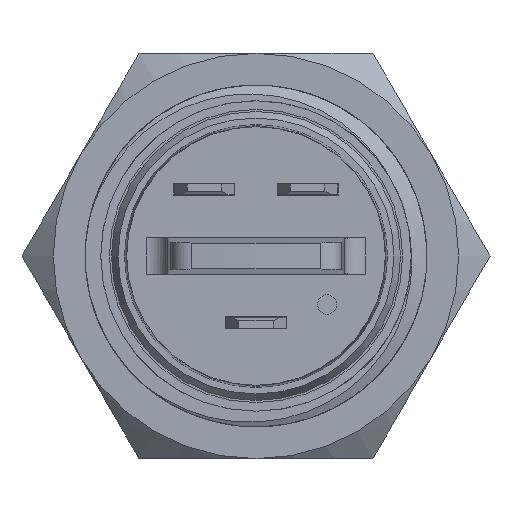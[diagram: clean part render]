
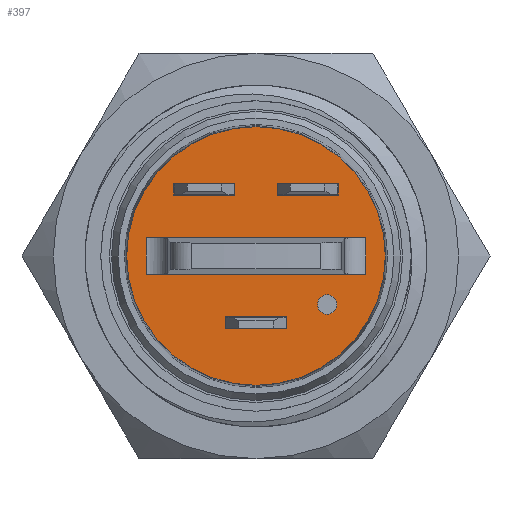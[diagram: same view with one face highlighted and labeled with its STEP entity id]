
A CAD part, front view. The second image highlights one B-rep face of the part: STEP entity #397.
In plain terms, the highlighted planar face has unit normal (0, -1, 0).
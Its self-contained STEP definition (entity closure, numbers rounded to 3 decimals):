
#397=ADVANCED_FACE('',(#716,#717,#718,#719,#720,#721),#556,.F.);
#556=PLANE('',#3203);
#651=CIRCLE('',#3201,0.45);
#652=CIRCLE('',#3202,6.);
#716=FACE_BOUND('',#844,.T.);
#717=FACE_BOUND('',#845,.T.);
#718=FACE_BOUND('',#846,.T.);
#719=FACE_BOUND('',#847,.T.);
#720=FACE_BOUND('',#848,.T.);
#721=FACE_BOUND('',#849,.T.);
#844=EDGE_LOOP('',(#1331,#1332,#1333,#1334));
#845=EDGE_LOOP('',(#1335,#1336,#1337,#1338));
#846=EDGE_LOOP('',(#1339));
#847=EDGE_LOOP('',(#1340));
#848=EDGE_LOOP('',(#1341,#1342,#1343,#1344));
#849=EDGE_LOOP('',(#1345,#1346,#1347,#1348));
#1331=ORIENTED_EDGE('',*,*,#2291,.F.);
#1332=ORIENTED_EDGE('',*,*,#2292,.F.);
#1333=ORIENTED_EDGE('',*,*,#2293,.F.);
#1334=ORIENTED_EDGE('',*,*,#2294,.F.);
#1335=ORIENTED_EDGE('',*,*,#2295,.T.);
#1336=ORIENTED_EDGE('',*,*,#2296,.T.);
#1337=ORIENTED_EDGE('',*,*,#2297,.T.);
#1338=ORIENTED_EDGE('',*,*,#2298,.T.);
#1339=ORIENTED_EDGE('',*,*,#2299,.T.);
#1340=ORIENTED_EDGE('',*,*,#2300,.T.);
#1341=ORIENTED_EDGE('',*,*,#2301,.T.);
#1342=ORIENTED_EDGE('',*,*,#2302,.T.);
#1343=ORIENTED_EDGE('',*,*,#2303,.F.);
#1344=ORIENTED_EDGE('',*,*,#2304,.F.);
#1345=ORIENTED_EDGE('',*,*,#2305,.F.);
#1346=ORIENTED_EDGE('',*,*,#2306,.F.);
#1347=ORIENTED_EDGE('',*,*,#2307,.F.);
#1348=ORIENTED_EDGE('',*,*,#2308,.F.);
#1953=VERTEX_POINT('',#4559);
#1954=VERTEX_POINT('',#4560);
#1955=VERTEX_POINT('',#4562);
#1956=VERTEX_POINT('',#4564);
#1957=VERTEX_POINT('',#4567);
#1958=VERTEX_POINT('',#4568);
#1959=VERTEX_POINT('',#4570);
#1960=VERTEX_POINT('',#4572);
#1961=VERTEX_POINT('',#4575);
#1962=VERTEX_POINT('',#4577);
#1963=VERTEX_POINT('',#4579);
#1964=VERTEX_POINT('',#4580);
#1965=VERTEX_POINT('',#4582);
#1966=VERTEX_POINT('',#4584);
#1967=VERTEX_POINT('',#4587);
#1968=VERTEX_POINT('',#4588);
#1969=VERTEX_POINT('',#4590);
#1970=VERTEX_POINT('',#4592);
#2291=EDGE_CURVE('',#1953,#1954,#2682,.T.);
#2292=EDGE_CURVE('',#1955,#1953,#2683,.T.);
#2293=EDGE_CURVE('',#1956,#1955,#2684,.T.);
#2294=EDGE_CURVE('',#1954,#1956,#2685,.T.);
#2295=EDGE_CURVE('',#1957,#1958,#2686,.T.);
#2296=EDGE_CURVE('',#1958,#1959,#2687,.T.);
#2297=EDGE_CURVE('',#1959,#1960,#2688,.T.);
#2298=EDGE_CURVE('',#1960,#1957,#2689,.T.);
#2299=EDGE_CURVE('',#1961,#1961,#651,.T.);
#2300=EDGE_CURVE('',#1962,#1962,#652,.T.);
#2301=EDGE_CURVE('',#1963,#1964,#2690,.T.);
#2302=EDGE_CURVE('',#1964,#1965,#2691,.T.);
#2303=EDGE_CURVE('',#1966,#1965,#2692,.T.);
#2304=EDGE_CURVE('',#1963,#1966,#2693,.T.);
#2305=EDGE_CURVE('',#1967,#1968,#2694,.T.);
#2306=EDGE_CURVE('',#1969,#1967,#2695,.T.);
#2307=EDGE_CURVE('',#1970,#1969,#2696,.T.);
#2308=EDGE_CURVE('',#1968,#1970,#2697,.T.);
#2682=LINE('',#4558,#2974);
#2683=LINE('',#4561,#2975);
#2684=LINE('',#4563,#2976);
#2685=LINE('',#4565,#2977);
#2686=LINE('',#4566,#2978);
#2687=LINE('',#4569,#2979);
#2688=LINE('',#4571,#2980);
#2689=LINE('',#4573,#2981);
#2690=LINE('',#4578,#2982);
#2691=LINE('',#4581,#2983);
#2692=LINE('',#4583,#2984);
#2693=LINE('',#4585,#2985);
#2694=LINE('',#4586,#2986);
#2695=LINE('',#4589,#2987);
#2696=LINE('',#4591,#2988);
#2697=LINE('',#4593,#2989);
#2974=VECTOR('',#3705,1.);
#2975=VECTOR('',#3706,1.);
#2976=VECTOR('',#3707,1.);
#2977=VECTOR('',#3708,1.);
#2978=VECTOR('',#3709,1.);
#2979=VECTOR('',#3710,1.);
#2980=VECTOR('',#3711,1.);
#2981=VECTOR('',#3712,1.);
#2982=VECTOR('',#3717,1.);
#2983=VECTOR('',#3718,1.);
#2984=VECTOR('',#3719,1.);
#2985=VECTOR('',#3720,1.);
#2986=VECTOR('',#3721,1.);
#2987=VECTOR('',#3722,1.);
#2988=VECTOR('',#3723,1.);
#2989=VECTOR('',#3724,1.);
#3201=AXIS2_PLACEMENT_3D('',#4574,#3713,#3714);
#3202=AXIS2_PLACEMENT_3D('',#4576,#3715,#3716);
#3203=AXIS2_PLACEMENT_3D('',#4594,#3725,#3726);
#3705=DIRECTION('',(0.,0.,-1.));
#3706=DIRECTION('',(-1.,0.,0.));
#3707=DIRECTION('',(0.,0.,1.));
#3708=DIRECTION('',(1.,0.,0.));
#3709=DIRECTION('',(1.,0.,0.));
#3710=DIRECTION('',(0.,0.,-1.));
#3711=DIRECTION('',(-1.,0.,0.));
#3712=DIRECTION('',(0.,0.,1.));
#3713=DIRECTION('',(0.,1.,0.));
#3714=DIRECTION('',(1.,0.,0.));
#3715=DIRECTION('',(0.,-1.,0.));
#3716=DIRECTION('',(0.,0.,-1.));
#3717=DIRECTION('',(0.,0.,1.));
#3718=DIRECTION('',(1.,0.,0.));
#3719=DIRECTION('',(0.,0.,1.));
#3720=DIRECTION('',(1.,0.,0.));
#3721=DIRECTION('',(-1.,0.,0.));
#3722=DIRECTION('',(0.,0.,1.));
#3723=DIRECTION('',(1.,0.,0.));
#3724=DIRECTION('',(0.,0.,-1.));
#3725=DIRECTION('',(0.,1.,0.));
#3726=DIRECTION('',(0.,0.,1.));
#4558=CARTESIAN_POINT('',(-1.425,-21.5,50.));
#4559=CARTESIAN_POINT('',(-1.425,-21.5,47.175));
#4560=CARTESIAN_POINT('',(-1.425,-21.5,46.625));
#4561=CARTESIAN_POINT('',(6.,-21.5,47.175));
#4562=CARTESIAN_POINT('',(1.425,-21.5,47.175));
#4563=CARTESIAN_POINT('',(1.425,-21.5,50.));
#4564=CARTESIAN_POINT('',(1.425,-21.5,46.625));
#4565=CARTESIAN_POINT('',(6.,-21.5,46.625));
#4566=CARTESIAN_POINT('',(6.,-21.5,53.375));
#4567=CARTESIAN_POINT('',(0.975,-21.5,53.375));
#4568=CARTESIAN_POINT('',(3.825,-21.5,53.375));
#4569=CARTESIAN_POINT('',(3.825,-21.5,50.));
#4570=CARTESIAN_POINT('',(3.825,-21.5,52.825));
#4571=CARTESIAN_POINT('',(6.,-21.5,52.825));
#4572=CARTESIAN_POINT('',(0.975,-21.5,52.825));
#4573=CARTESIAN_POINT('',(0.975,-21.5,50.));
#4574=CARTESIAN_POINT('',(3.3,-21.5,47.75));
#4575=CARTESIAN_POINT('',(3.75,-21.5,47.75));
#4576=CARTESIAN_POINT('',(0.,-21.5,50.));
#4577=CARTESIAN_POINT('',(0.,-21.5,44.));
#4578=CARTESIAN_POINT('',(-5.1,-21.5,48.3));
#4579=CARTESIAN_POINT('',(-5.1,-21.5,49.15));
#4580=CARTESIAN_POINT('',(-5.1,-21.5,50.85));
#4581=CARTESIAN_POINT('',(-18.404,-21.5,50.85));
#4582=CARTESIAN_POINT('',(5.1,-21.5,50.85));
#4583=CARTESIAN_POINT('',(5.1,-21.5,48.3));
#4584=CARTESIAN_POINT('',(5.1,-21.5,49.15));
#4585=CARTESIAN_POINT('',(-18.404,-21.5,49.15));
#4586=CARTESIAN_POINT('',(6.,-21.5,53.375));
#4587=CARTESIAN_POINT('',(-0.975,-21.5,53.375));
#4588=CARTESIAN_POINT('',(-3.825,-21.5,53.375));
#4589=CARTESIAN_POINT('',(-0.975,-21.5,50.));
#4590=CARTESIAN_POINT('',(-0.975,-21.5,52.825));
#4591=CARTESIAN_POINT('',(6.,-21.5,52.825));
#4592=CARTESIAN_POINT('',(-3.825,-21.5,52.825));
#4593=CARTESIAN_POINT('',(-3.825,-21.5,50.));
#4594=CARTESIAN_POINT('',(6.,-21.5,50.));
